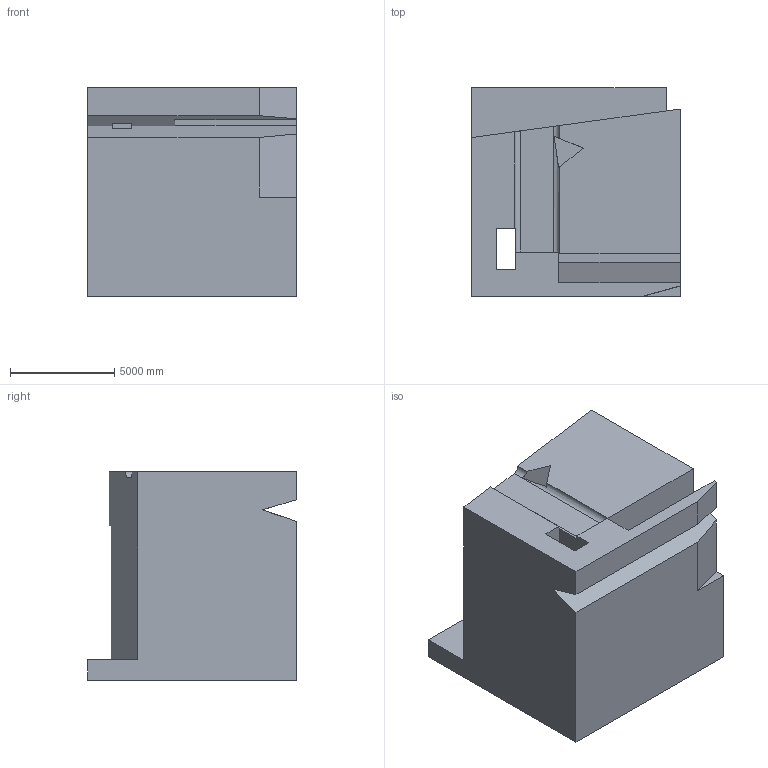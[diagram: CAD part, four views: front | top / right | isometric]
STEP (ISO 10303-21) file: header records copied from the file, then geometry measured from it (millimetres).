
FILE_DESCRIPTION (( 'STEP AP203' ), '1' );
FILE_NAME ('73.STEP', '2022-09-01T11:57:06', ( 'user' ), ( '' ), 'SwSTEP 2.0', 'SolidWorks 2021', '' );
FILE_SCHEMA (( 'CONFIG_CONTROL_DESIGN' ));
Length unit declared in the file: centimetre
Products named in the file (1): 73
Bounding box: 10000 x 10000 x 10000 mm (x, y, z)
Volume: 793793254202.4 mm3; surface area: 659988148.2 mm2
Topology: 1 solids, 1 shells, 35 faces, 107 edges, 71 vertices
Faces by surface type: plane 33, cylinder 2
Entity records: 1261 total; most frequent: CARTESIAN_POINT 229, ORIENTED_EDGE 214, DIRECTION 177, EDGE_CURVE 107, LINE 99, VECTOR 99, VERTEX_POINT 71, AXIS2_PLACEMENT_3D 39
